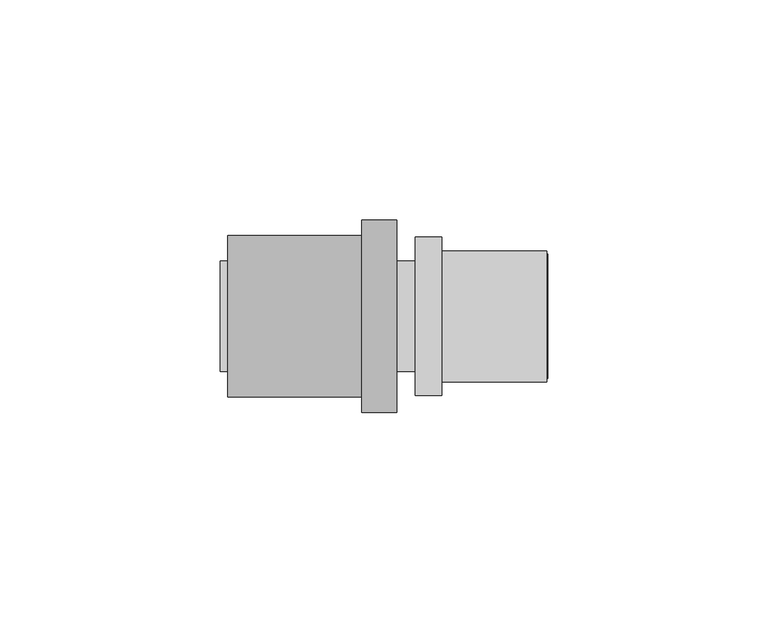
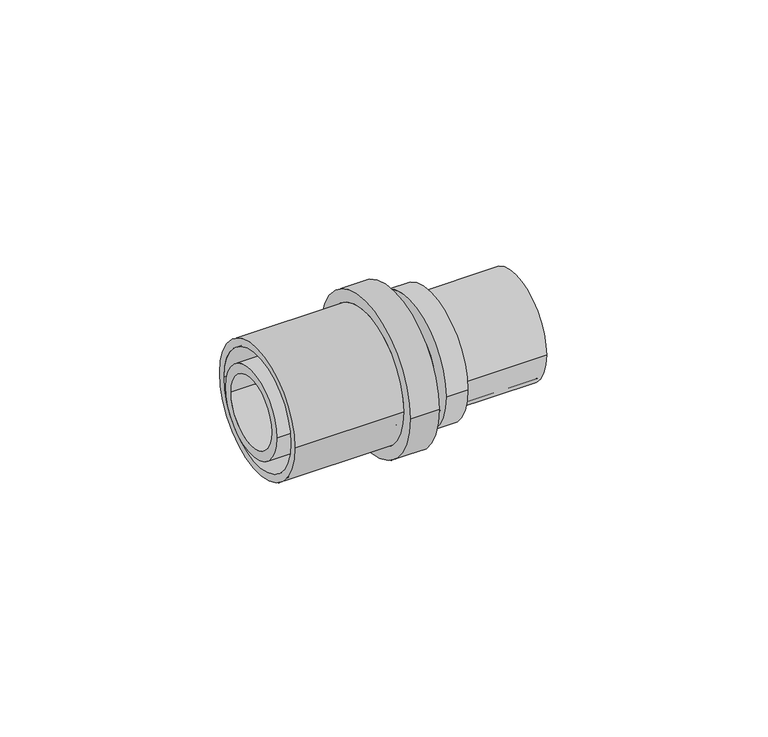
"""IFC4 building model written with IfcOpenShell, lengths in millimetres: pipe fitting geometry, FASTLOC_Coupling reduced EX+ : FSL C EX+ AT."""

from ifc_helpers import new_model, si_unit, frame, origin, place, context, project, spatial, polyline, circle_curve, source, transform, mapped, element, save
from ifc_brep_helpers import plane_surface, cylinder_surface, revolved_surface, advanced_brep


def pipe_fitting_1a227808(model_context):
    return source(origin(), model_context, "Body", "AdvancedBrep", [
        advanced_brep(
        [(5.8, 18.0, 0.0), (5.8, -18.0, 0.0), (-0.2, -18.0, 0.0), (-0.2, 18.0, 0.0), (29.6, 14.85, 0.0), (29.6, -14.85, 0.0), (5.8, -14.85, 0.0), (5.8, 14.85, 0.0), (-0.2, 12.65, 0.0), (-0.2, -12.65, 0.0), (29.6, -12.65, 0.0), (29.6, 12.65, 0.0)],
        [
            (0, 1, circle_curve(frame((5.8, 0.0, 0.0), z_axis=(-1.0, 0.0, 0.0), x_axis=(0.0, -1.0, 0.0)), 18.0)),
            (1, 2),
            (2, 3, circle_curve(frame((-0.2, 0.0, 0.0), z_axis=(1.0, 0.0, 0.0), x_axis=(0.0, -1.0, 0.0)), 18.0)),
            (3, 0),
            (4, 5, circle_curve(frame((29.6, 0.0, 0.0), z_axis=(-1.0, 0.0, 0.0), x_axis=(0.0, -1.0, 0.0)), 14.85)),
            (5, 6),
            (6, 7, circle_curve(frame((5.8, 0.0, 0.0), z_axis=(1.0, 0.0, 0.0), x_axis=(0.0, -1.0, 0.0)), 14.85)),
            (7, 4),
            (8, 9, circle_curve(frame((-0.2, 0.0, 0.0), z_axis=(-1.0, 0.0, 0.0), x_axis=(0.0, -1.0, 0.0)), 12.65)),
            (9, 10),
            (10, 11, circle_curve(frame((29.6, 0.0, 0.0), z_axis=(1.0, 0.0, 0.0), x_axis=(0.0, -1.0, 0.0)), 12.65)),
            (11, 8),
            (1, 0, circle_curve(frame((5.8, 0.0, 0.0), z_axis=(-1.0, 0.0, 0.0), x_axis=(0.0, 1.0, 0.0)), 18.0)),
            (3, 2, circle_curve(frame((-0.2, 0.0, 0.0), z_axis=(1.0, 0.0, 0.0), x_axis=(0.0, 1.0, 0.0)), 18.0)),
            (6, 7, circle_curve(frame((5.8, 0.0, 0.0), z_axis=(-1.0, 0.0, 0.0), x_axis=(0.0, 1.0, 0.0)), 14.85)),
            (5, 4, circle_curve(frame((29.6, 0.0, 0.0), z_axis=(-1.0, 0.0, 0.0), x_axis=(0.0, 1.0, 0.0)), 14.85)),
            (10, 11, circle_curve(frame((29.6, 0.0, 0.0), z_axis=(-1.0, 0.0, 0.0), x_axis=(0.0, 1.0, 0.0)), 12.65)),
            (9, 8, circle_curve(frame((-0.2, 0.0, 0.0), z_axis=(-1.0, 0.0, 0.0), x_axis=(0.0, 1.0, 0.0)), 12.65)),
        ],
        [
            cylinder_surface(frame((-0.2, 0.0, 0.0), z_axis=(1.0, 0.0, 0.0), x_axis=(0.0, -1.0, 0.0)), 18.0),
            cylinder_surface(frame((-0.2, 0.0, 0.0), z_axis=(1.0, 0.0, 0.0), x_axis=(0.0, -1.0, 0.0)), 14.85),
            revolved_surface(polyline([(29.6, -12.65, 0.0), (-0.2, -12.65, 0.0)]), (-0.2, 0.0, 0.0), (1.0, 0.0, 0.0)),
            cylinder_surface(frame((-0.2, 0.0, 0.0), z_axis=(1.0, 0.0, 0.0), x_axis=(0.0, 1.0, 0.0)), 18.0),
            plane_surface(frame((5.8, 0.0, 0.0), z_axis=(1.0, 0.0, 0.0), x_axis=(0.0, 1.0, 0.0))),
            cylinder_surface(frame((-0.2, 0.0, 0.0), z_axis=(1.0, 0.0, 0.0), x_axis=(0.0, 1.0, 0.0)), 14.85),
            plane_surface(frame((29.6, 0.0, 0.0), z_axis=(1.0, 0.0, 0.0), x_axis=(0.0, 1.0, 0.0))),
            revolved_surface(polyline([(29.6, 12.65, 0.0), (-0.2, 12.65, 0.0)]), (-0.2, 0.0, 0.0), (1.0, 0.0, 0.0)),
            plane_surface(frame((-0.2, 0.0, 0.0), z_axis=(-1.0, 0.0, 0.0), x_axis=(0.0, 1.0, 0.0))),
        ],
        [
            (0, [[1, 2, 3, 4]]),
            (1, [[5, 6, 7, 8]]),
            (2, [[9, 10, 11, 12]]),
            (3, [[13, -4, 14, -2]]),
            (4, [[-13, -1], [15, -7]]),
            (5, [[16, -8, -15, -6]]),
            (6, [[-16, -5], [17, -11]]),
            (7, [[18, -12, -17, -10]]),
            (8, [[-14, -3], [-18, -9]]),
        ],
    ),
        advanced_brep(
        [(-12.4, -21.8, 0.0), (-12.4, 21.8, 0.0), (-4.4, 21.8, 0.0), (-4.4, -21.8, 0.0), (-42.7, -18.35, 0.0), (-42.7, 18.35, 0.0), (-12.4, 18.35, 0.0), (-12.4, -18.35, 0.0), (-4.4, -16.2, 0.0), (-4.4, 16.2, 0.0), (-42.7, 16.2, 0.0), (-42.7, -16.2, 0.0)],
        [
            (0, 1, circle_curve(frame((-12.4, 0.0, 0.0), z_axis=(1.0, 0.0, 0.0), x_axis=(0.0, 1.0, 0.0)), 21.8)),
            (1, 2),
            (2, 3, circle_curve(frame((-4.4, 0.0, 0.0), z_axis=(-1.0, 0.0, 0.0), x_axis=(0.0, 1.0, 0.0)), 21.8)),
            (3, 0),
            (4, 5, circle_curve(frame((-42.7, 0.0, 0.0), z_axis=(1.0, 0.0, 0.0), x_axis=(0.0, 1.0, 0.0)), 18.35)),
            (5, 6),
            (6, 7, circle_curve(frame((-12.4, 0.0, 0.0), z_axis=(-1.0, 0.0, 0.0), x_axis=(0.0, 1.0, 0.0)), 18.35)),
            (7, 4),
            (8, 9, circle_curve(frame((-4.4, 0.0, 0.0), z_axis=(1.0, 0.0, 0.0), x_axis=(0.0, 1.0, 0.0)), 16.2)),
            (9, 10),
            (10, 11, circle_curve(frame((-42.7, 0.0, 0.0), z_axis=(-1.0, 0.0, 0.0), x_axis=(0.0, 1.0, 0.0)), 16.2)),
            (11, 8),
            (1, 0, circle_curve(frame((-12.4, 0.0, 0.0), z_axis=(1.0, 0.0, 0.0), x_axis=(0.0, -1.0, 0.0)), 21.8)),
            (3, 2, circle_curve(frame((-4.4, 0.0, 0.0), z_axis=(-1.0, 0.0, 0.0), x_axis=(0.0, -1.0, 0.0)), 21.8)),
            (6, 7, circle_curve(frame((-12.4, 0.0, 0.0), z_axis=(1.0, 0.0, 0.0), x_axis=(0.0, -1.0, 0.0)), 18.35)),
            (5, 4, circle_curve(frame((-42.7, 0.0, 0.0), z_axis=(1.0, 0.0, 0.0), x_axis=(0.0, -1.0, 0.0)), 18.35)),
            (10, 11, circle_curve(frame((-42.7, 0.0, 0.0), z_axis=(1.0, 0.0, 0.0), x_axis=(0.0, -1.0, 0.0)), 16.2)),
            (9, 8, circle_curve(frame((-4.4, 0.0, 0.0), z_axis=(1.0, 0.0, 0.0), x_axis=(0.0, -1.0, 0.0)), 16.2)),
        ],
        [
            cylinder_surface(frame((-4.4, 0.0, 0.0), z_axis=(-1.0, 0.0, 0.0), x_axis=(0.0, 1.0, 0.0)), 21.8),
            cylinder_surface(frame((-4.4, 0.0, 0.0), z_axis=(-1.0, 0.0, 0.0), x_axis=(0.0, 1.0, 0.0)), 18.35),
            revolved_surface(polyline([(-42.7, 16.2, 0.0), (-4.4, 16.2, 0.0)]), (-4.4, 0.0, 0.0), (-1.0, 0.0, 0.0)),
            cylinder_surface(frame((-4.4, 0.0, 0.0), z_axis=(-1.0, 0.0, 0.0), x_axis=(0.0, -1.0, 0.0)), 21.8),
            plane_surface(frame((-12.4, 0.0, 0.0), z_axis=(-1.0, 0.0, 0.0), x_axis=(0.0, -1.0, 0.0))),
            cylinder_surface(frame((-4.4, 0.0, 0.0), z_axis=(-1.0, 0.0, 0.0), x_axis=(0.0, -1.0, 0.0)), 18.35),
            plane_surface(frame((-42.7, 0.0, 0.0), z_axis=(-1.0, 0.0, 0.0), x_axis=(0.0, -1.0, 0.0))),
            revolved_surface(polyline([(-42.7, -16.2, 0.0), (-4.4, -16.2, 0.0)]), (-4.4, 0.0, 0.0), (-1.0, 0.0, 0.0)),
            plane_surface(frame((-4.4, 0.0, 0.0), z_axis=(1.0, 0.0, 0.0), x_axis=(0.0, -1.0, 0.0))),
        ],
        [
            (0, [[1, 2, 3, 4]]),
            (1, [[5, 6, 7, 8]]),
            (2, [[9, 10, 11, 12]]),
            (3, [[13, -4, 14, -2]]),
            (4, [[-13, -1], [15, -7]]),
            (5, [[16, -8, -15, -6]]),
            (6, [[-16, -5], [17, -11]]),
            (7, [[18, -12, -17, -10]]),
            (8, [[-14, -3], [-18, -9]]),
        ],
    ),
        advanced_brep(
        [(2.0, 12.5, 0.0), (2.0, -12.5, 0.0), (-9.4, -12.5, 0.0), (-9.4, 12.5, 0.0), (-9.4, 14.1, 0.0), (-9.4, -14.1, 0.0), (-12.4, -14.1, 0.0), (-12.4, 14.1, 0.0), (-12.4, 12.5, 0.0), (-12.4, -12.5, 0.0), (-44.4, -12.5, 0.0), (-44.4, 12.5, 0.0), (-44.4, 9.85, 0.0), (-44.4, -9.85, 0.0), (7.85, -9.85, 0.0), (7.85, 9.85, 0.0), (7.85, 11.85, 0.0), (7.85, -11.85, 0.0), (29.8, -11.85, 0.0), (29.8, 11.85, 0.0), (29.8, 14.1, 0.0), (29.8, -14.1, 0.0), (5.8, -14.1, 0.0), (5.8, 14.1, 0.0), (5.8, 15.6, 0.0), (5.8, -15.6, 0.0), (3.0, -15.6, 0.0), (3.0, 15.6, 0.0), (3.0, 14.1, 0.0), (3.0, -14.1, 0.0), (2.0, -14.1, 0.0), (2.0, 14.1, 0.0)],
        [
            (0, 1, circle_curve(frame((2.0, 0.0, 0.0), z_axis=(-1.0, 0.0, 0.0), x_axis=(0.0, -1.0, 0.0)), 12.5)),
            (1, 2),
            (2, 3, circle_curve(frame((-9.4, 0.0, 0.0), z_axis=(1.0, 0.0, 0.0), x_axis=(0.0, -1.0, 0.0)), 12.5)),
            (3, 0),
            (4, 5, circle_curve(frame((-9.4, 0.0, 0.0), z_axis=(-1.0, 0.0, 0.0), x_axis=(0.0, -1.0, 0.0)), 14.1)),
            (5, 6),
            (6, 7, circle_curve(frame((-12.4, 0.0, 0.0), z_axis=(1.0, 0.0, 0.0), x_axis=(0.0, -1.0, 0.0)), 14.1)),
            (7, 4),
            (8, 9, circle_curve(frame((-12.4, 0.0, 0.0), z_axis=(-1.0, 0.0, 0.0), x_axis=(0.0, -1.0, 0.0)), 12.5)),
            (9, 10),
            (10, 11, circle_curve(frame((-44.4, 0.0, 0.0), z_axis=(1.0, 0.0, 0.0), x_axis=(0.0, -1.0, 0.0)), 12.5)),
            (11, 8),
            (12, 13, circle_curve(frame((-44.4, 0.0, 0.0), z_axis=(-1.0, 0.0, 0.0), x_axis=(0.0, -1.0, 0.0)), 9.85)),
            (13, 14),
            (14, 15, circle_curve(frame((7.85, 0.0, 0.0), z_axis=(1.0, 0.0, 0.0), x_axis=(0.0, -1.0, 0.0)), 9.85)),
            (15, 12),
            (16, 17, circle_curve(frame((7.85, 0.0, 0.0), z_axis=(-1.0, 0.0, 0.0), x_axis=(0.0, -1.0, 0.0)), 11.85)),
            (17, 18),
            (18, 19, circle_curve(frame((29.8, 0.0, 0.0), z_axis=(1.0, 0.0, 0.0), x_axis=(0.0, -1.0, 0.0)), 11.85)),
            (19, 16),
            (20, 21, circle_curve(frame((29.8, 0.0, 0.0), z_axis=(-1.0, 0.0, 0.0), x_axis=(0.0, -1.0, 0.0)), 14.1)),
            (21, 22),
            (22, 23, circle_curve(frame((5.8, 0.0, 0.0), z_axis=(1.0, 0.0, 0.0), x_axis=(0.0, -1.0, 0.0)), 14.1)),
            (23, 20),
            (24, 25, circle_curve(frame((5.8, 0.0, 0.0), z_axis=(-1.0, 0.0, 0.0), x_axis=(0.0, -1.0, 0.0)), 15.6)),
            (25, 26),
            (26, 27, circle_curve(frame((3.0, 0.0, 0.0), z_axis=(1.0, 0.0, 0.0), x_axis=(0.0, -1.0, 0.0)), 15.6)),
            (27, 24),
            (28, 29, circle_curve(frame((3.0, 0.0, 0.0), z_axis=(-1.0, 0.0, 0.0), x_axis=(0.0, -1.0, 0.0)), 14.1)),
            (29, 30),
            (30, 31, circle_curve(frame((2.0, 0.0, 0.0), z_axis=(1.0, 0.0, 0.0), x_axis=(0.0, -1.0, 0.0)), 14.1)),
            (31, 28),
            (1, 0, circle_curve(frame((2.0, 0.0, 0.0), z_axis=(-1.0, 0.0, 0.0), x_axis=(0.0, 1.0, 0.0)), 12.5)),
            (3, 2, circle_curve(frame((-9.4, 0.0, 0.0), z_axis=(1.0, 0.0, 0.0), x_axis=(0.0, 1.0, 0.0)), 12.5)),
            (4, 5, circle_curve(frame((-9.4, 0.0, 0.0), z_axis=(1.0, 0.0, 0.0), x_axis=(0.0, 1.0, 0.0)), 14.1)),
            (7, 6, circle_curve(frame((-12.4, 0.0, 0.0), z_axis=(1.0, 0.0, 0.0), x_axis=(0.0, 1.0, 0.0)), 14.1)),
            (8, 9, circle_curve(frame((-12.4, 0.0, 0.0), z_axis=(1.0, 0.0, 0.0), x_axis=(0.0, 1.0, 0.0)), 12.5)),
            (11, 10, circle_curve(frame((-44.4, 0.0, 0.0), z_axis=(1.0, 0.0, 0.0), x_axis=(0.0, 1.0, 0.0)), 12.5)),
            (12, 13, circle_curve(frame((-44.4, 0.0, 0.0), z_axis=(1.0, 0.0, 0.0), x_axis=(0.0, 1.0, 0.0)), 9.85)),
            (15, 14, circle_curve(frame((7.85, 0.0, 0.0), z_axis=(1.0, 0.0, 0.0), x_axis=(0.0, 1.0, 0.0)), 9.85)),
            (16, 17, circle_curve(frame((7.85, 0.0, 0.0), z_axis=(1.0, 0.0, 0.0), x_axis=(0.0, 1.0, 0.0)), 11.85)),
            (19, 18, circle_curve(frame((29.8, 0.0, 0.0), z_axis=(1.0, 0.0, 0.0), x_axis=(0.0, 1.0, 0.0)), 11.85)),
            (20, 21, circle_curve(frame((29.8, 0.0, 0.0), z_axis=(1.0, 0.0, 0.0), x_axis=(0.0, 1.0, 0.0)), 14.1)),
            (23, 22, circle_curve(frame((5.8, 0.0, 0.0), z_axis=(1.0, 0.0, 0.0), x_axis=(0.0, 1.0, 0.0)), 14.1)),
            (24, 25, circle_curve(frame((5.8, 0.0, 0.0), z_axis=(1.0, 0.0, 0.0), x_axis=(0.0, 1.0, 0.0)), 15.6)),
            (27, 26, circle_curve(frame((3.0, 0.0, 0.0), z_axis=(1.0, 0.0, 0.0), x_axis=(0.0, 1.0, 0.0)), 15.6)),
            (28, 29, circle_curve(frame((3.0, 0.0, 0.0), z_axis=(1.0, 0.0, 0.0), x_axis=(0.0, 1.0, 0.0)), 14.1)),
            (31, 30, circle_curve(frame((2.0, 0.0, 0.0), z_axis=(1.0, 0.0, 0.0), x_axis=(0.0, 1.0, 0.0)), 14.1)),
        ],
        [
            cylinder_surface(frame((0.0, 0.0, 0.0), z_axis=(1.0, 0.0, 0.0), x_axis=(0.0, -1.0, 0.0)), 12.5),
            cylinder_surface(frame((0.0, 0.0, 0.0), z_axis=(1.0, 0.0, 0.0), x_axis=(0.0, -1.0, 0.0)), 14.1),
            revolved_surface(polyline([(7.85, -9.85, 0.0), (-44.4, -9.85, 0.0)]), (0.0, 0.0, 0.0), (1.0, 0.0, 0.0)),
            revolved_surface(polyline([(29.8, -11.85, 0.0), (7.85, -11.85, 0.0)]), (0.0, 0.0, 0.0), (1.0, 0.0, 0.0)),
            cylinder_surface(frame((0.0, 0.0, 0.0), z_axis=(1.0, 0.0, 0.0), x_axis=(0.0, -1.0, 0.0)), 15.6),
            cylinder_surface(frame((0.0, 0.0, 0.0), z_axis=(1.0, 0.0, 0.0), x_axis=(0.0, 1.0, 0.0)), 12.5),
            plane_surface(frame((-9.4, 0.0, 0.0), z_axis=(1.0, 0.0, 0.0), x_axis=(0.0, 1.0, 0.0))),
            cylinder_surface(frame((0.0, 0.0, 0.0), z_axis=(1.0, 0.0, 0.0), x_axis=(0.0, 1.0, 0.0)), 14.1),
            plane_surface(frame((-12.4, 0.0, 0.0), z_axis=(-1.0, 0.0, 0.0), x_axis=(0.0, 1.0, 0.0))),
            plane_surface(frame((-44.4, 0.0, 0.0), z_axis=(-1.0, 0.0, 0.0), x_axis=(0.0, 1.0, 0.0))),
            revolved_surface(polyline([(7.85, 9.85, 0.0), (-44.4, 9.85, 0.0)]), (0.0, 0.0, 0.0), (1.0, 0.0, 0.0)),
            plane_surface(frame((7.85, 0.0, 0.0), z_axis=(1.0, 0.0, 0.0), x_axis=(0.0, 1.0, 0.0))),
            revolved_surface(polyline([(29.8, 11.85, 0.0), (7.85, 11.85, 0.0)]), (0.0, 0.0, 0.0), (1.0, 0.0, 0.0)),
            plane_surface(frame((29.8, 0.0, 0.0), z_axis=(1.0, 0.0, 0.0), x_axis=(0.0, 1.0, 0.0))),
            plane_surface(frame((5.8, 0.0, 0.0), z_axis=(1.0, 0.0, 0.0), x_axis=(0.0, 1.0, 0.0))),
            cylinder_surface(frame((0.0, 0.0, 0.0), z_axis=(1.0, 0.0, 0.0), x_axis=(0.0, 1.0, 0.0)), 15.6),
            plane_surface(frame((3.0, 0.0, 0.0), z_axis=(-1.0, 0.0, 0.0), x_axis=(0.0, 1.0, 0.0))),
            plane_surface(frame((2.0, 0.0, 0.0), z_axis=(-1.0, 0.0, 0.0), x_axis=(0.0, 1.0, 0.0))),
        ],
        [
            (0, [[1, 2, 3, 4]]),
            (1, [[5, 6, 7, 8]]),
            (0, [[9, 10, 11, 12]]),
            (2, [[13, 14, 15, 16]]),
            (3, [[17, 18, 19, 20]]),
            (1, [[21, 22, 23, 24]]),
            (4, [[25, 26, 27, 28]]),
            (1, [[29, 30, 31, 32]]),
            (5, [[33, -4, 34, -2]]),
            (6, [[35, -5], [-34, -3]]),
            (7, [[-35, -8, 36, -6]]),
            (8, [[-36, -7], [37, -9]]),
            (5, [[-37, -12, 38, -10]]),
            (9, [[-38, -11], [39, -13]]),
            (10, [[-39, -16, 40, -14]]),
            (11, [[41, -17], [-40, -15]]),
            (12, [[-41, -20, 42, -18]]),
            (13, [[43, -21], [-42, -19]]),
            (7, [[-43, -24, 44, -22]]),
            (14, [[45, -25], [-44, -23]]),
            (15, [[-45, -28, 46, -26]]),
            (16, [[-46, -27], [47, -29]]),
            (7, [[-47, -32, 48, -30]]),
            (17, [[-48, -31], [-33, -1]]),
        ],
    ),
    ])


if __name__ == "__main__":
    model = new_model("IFC4")
    model_context = context("Model", 3, world=origin())
    ifc_project = project(units=[si_unit("LENGTHUNIT", "METRE", prefix="MILLI")], contexts=[model_context])
    site = spatial("IfcSite", under=ifc_project)
    building = spatial("IfcBuilding", under=site)
    placement = place(None, origin())
    pipe_fitting_shape = pipe_fitting_1a227808(model_context)
    element("IfcPipeFitting", 1, ObjectType="FASTLOC_Coupling reduced EX+ : FSL C EX+ AT", at=placement, inside=building, context=model_context, shape_type="MappedRepresentation", body=[
        mapped(pipe_fitting_shape, transform((0.0, 0.0, 0.0), x_axis=(1.0, 0.0, 0.0), y_axis=(0.0, 1.0, 0.0), z_axis=(0.0, 0.0, 1.0))),
    ])
    save(model, "model.ifc")
